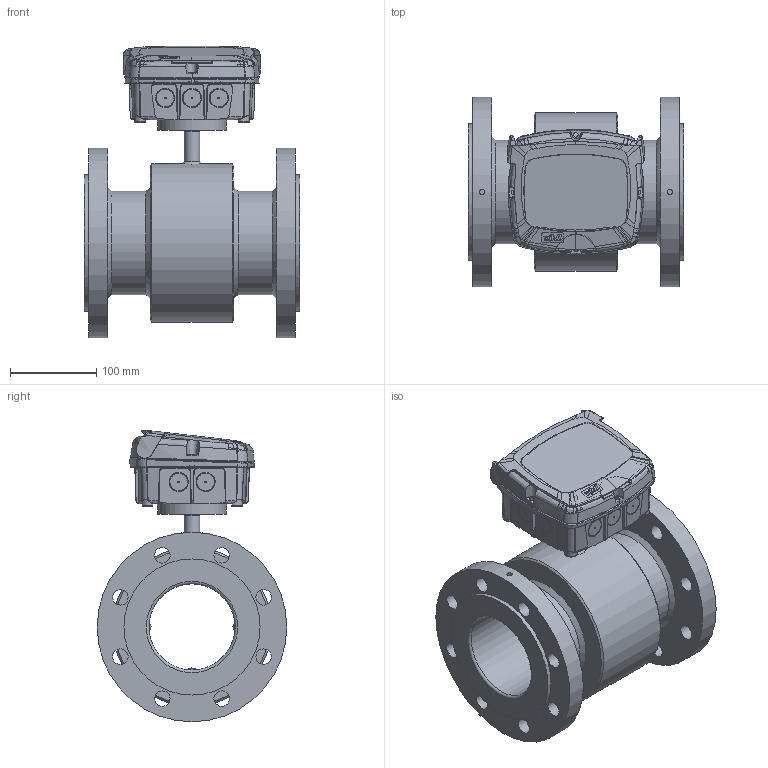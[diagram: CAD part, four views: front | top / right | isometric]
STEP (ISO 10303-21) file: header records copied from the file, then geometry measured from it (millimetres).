
FILE_DESCRIPTION((''),'2;1');
FILE_NAME('C:\Users\Claus\Dropbox\Projects 2011 - 2012\MJK Automation AS\DN 100 - DIN EN-1095-1.stp','2014-10-24T15:17:38',('Claus'),(''),'Autodesk Inventor 2013','Autodesk Inventor 2013','');
FILE_SCHEMA(('AUTOMOTIVE_DESIGN { 1 0 10303 214 1 1 1 1 }'));
Length unit declared in the file: millimetre
Products named in the file (7): DN 100 - DIN EN-1095-1; FC_MagFlux_assembly_r1; CH Bund ml; FC Top rev 06.04; CH 03.02; Electrode group DN15 - DN32
Assembly tree (8 placements, depth 3):
  DN 100 - DIN EN-1095-1
    DN 100 - DIN EN-1095-1
    FC_MagFlux_assembly_r1
      CH Bund ml
      FC Top rev 06.04
      CH 03.02
    Electrode group DN15 - DN32  x3
Bounding box: 250 x 220 x 338.34 mm (x, y, z)
Volume: 3904927.1 mm3; surface area: 610236.2 mm2
Topology: 10 solids, 10 shells, 2935 faces, 7994 edges, 5203 vertices
Faces by surface type: bspline 1752, plane 810, cylinder 210, cone 123, torus 25, revolution 9, sphere 6
Full cylindrical faces by diameter (mm): 2.5 x3, 3 x6, 4 x1, 6 x2, 6.5 x4, 7.042 x4, 8 x3, 8.048 x4, 12.072 x4, 15 x1, 18 x17, 18.108 x1, 64 x1, 100 x1, 120 x2, 158 x2, 184 x1, 220 x2
Entity records: 234060 total; most frequent: CARTESIAN_POINT 171564, ORIENTED_EDGE 15496, DIRECTION 7757, EDGE_CURVE 7748, VERTEX_POINT 5141, EDGE_LOOP 3273, VECTOR 3112, LINE 3112
